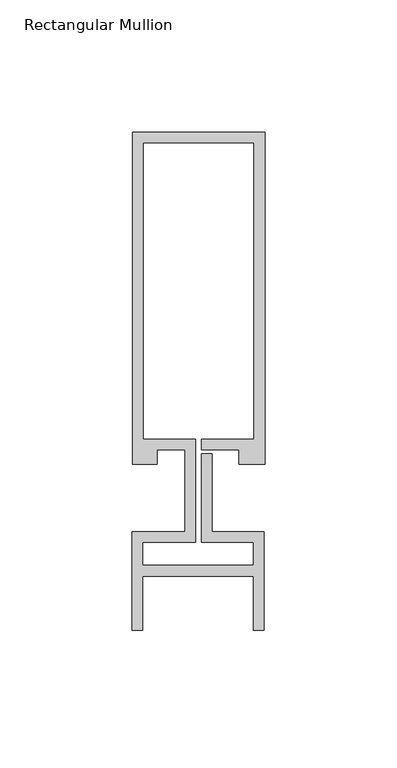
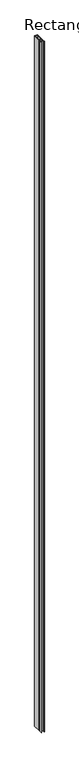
"""IFC4 building model written with IfcOpenShell, lengths in millimetres: member geometry, Rectangular Mullion : Reynaers_CW-50_Transom-Transom_125.5mm_Facecap-03."""

from ifc_helpers import new_model, si_unit, frame, origin, place, context, project, spatial, polyline, outline, extrude, source, transform, mapped, element, save


def rectangular_mullion_629073e1(model_context):
    return source(origin(), model_context, "Body", "SweptSolid", [
        extrude(outline(polyline([(25.1995941, 12.7331291), (15.499, 12.7331291), (15.499, 18.1331291), (1.2995941, 18.1331291), (1.2995941, 22.1331291), (21.1995941, 22.1331291), (21.1995941, 134.2331291), (-20.8004059, 134.2331291), (-20.8004059, 22.1331291), (-0.9004059, 22.1331291), (-0.9004059, -16.7331291), (-20.994845, -16.7331291), (-20.994845, -25.5600018), (20.994845, -25.5600018), (20.994845, -16.7331291), (1.2995941, -16.7331291), (1.2995941, 16.7615089), (5.2995941, 16.7615089), (5.2995941, -12.7331291), (24.994845, -12.7331291), (24.994845, -50.0331291), (20.994845, -50.0331291), (20.994845, -29.5600018), (-20.994845, -29.5600018), (-20.994845, -50.0331291), (-24.994845, -50.0331291), (-24.994845, -12.7331291), (-4.9004059, -12.7331291), (-4.9004059, 18.1331291), (-15.499, 18.1331291), (-15.499, 12.7331291), (-24.8004059, 12.7331291), (-24.8004059, 138.2331291), (25.1995941, 138.2331291), (25.1995941, 12.7331291)])), frame((0.0, 0.0, -12000.0), z_axis=(0.0, 0.0, 1.0), x_axis=(1.0, 0.0, 0.0)), (0.0, 0.0, 1.0), 12000.0),
    ])


if __name__ == "__main__":
    model = new_model("IFC4")
    model_context = context("Model", 3, world=origin())
    ifc_project = project(units=[si_unit("LENGTHUNIT", "METRE", prefix="MILLI")], contexts=[model_context])
    site = spatial("IfcSite", under=ifc_project)
    building = spatial("IfcBuilding", under=site)
    placement = place(None, origin())
    rectangular_mullion_shape = rectangular_mullion_629073e1(model_context)
    element("IfcMember", 1, ObjectType="Rectangular Mullion : Reynaers_CW-50_Transom-Transom_125.5mm_Facecap-03", at=placement, inside=building, context=model_context, shape_type="MappedRepresentation", body=[
        mapped(rectangular_mullion_shape, transform((0.0, 0.0, 0.0), x_axis=(1.0, 0.0, 0.0), y_axis=(0.0, 1.0, 0.0), z_axis=(0.0, 0.0, 1.0))),
    ])
    save(model, "model.ifc")
